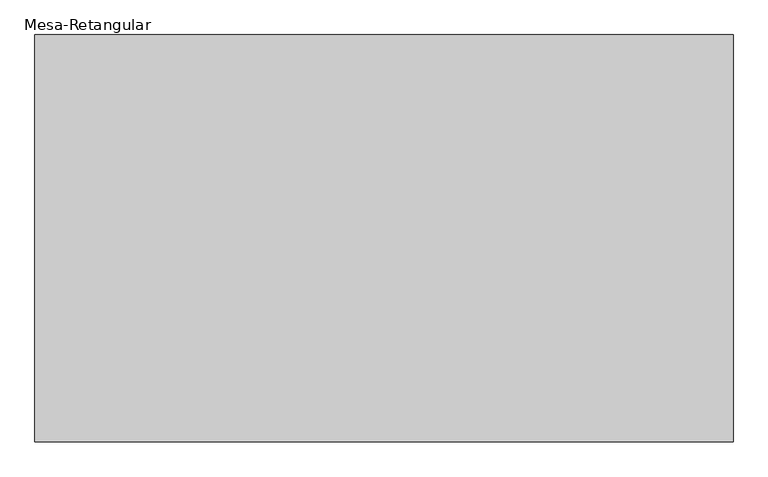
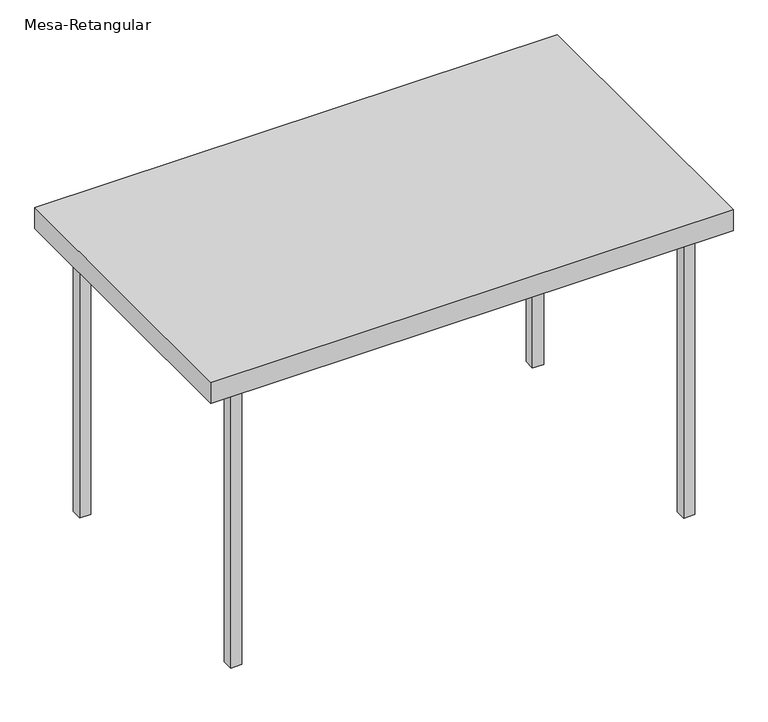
"""IFC4 building model written with IfcOpenShell, lengths in millimetres: furniture geometry, Mesa-Retangular : Mesa aço inox 70x120cm."""

from ifc_helpers import new_model, si_unit, frame, origin, origin_with_axes, place, context, project, spatial, polyline, outline, extrude, source, transform, mapped, element, save


def mesa_retangular_e6b4b2a0(model_context):
    return source(origin(), model_context, "Body", "SweptSolid", [
        extrude(outline(polyline([(-532.8946305, 288.2145104), (-532.8946305, 313.6145104), (-507.4946305, 313.6145104), (-507.4946305, 288.2145104), (-532.8946305, 288.2145104)])), origin_with_axes(), (0.0, 0.0, 1.0), 689.2),
        extrude(outline(polyline([(-532.8946305, -288.2145104), (-507.4946305, -288.2145104), (-507.4946305, -313.6145104), (-532.8946305, -313.6145104), (-532.8946305, -288.2145104)])), origin_with_axes(), (0.0, 0.0, 1.0), 689.2),
        extrude(outline(polyline([(532.8946305, 288.2145104), (507.4946305, 288.2145104), (507.4946305, 313.6145104), (532.8946305, 313.6145104), (532.8946305, 288.2145104)])), origin_with_axes(), (0.0, 0.0, 1.0), 689.2),
        extrude(outline(polyline([(532.8946305, -288.2145104), (532.8946305, -313.6145104), (507.4946305, -313.6145104), (507.4946305, -288.2145104), (532.8946305, -288.2145104)])), origin_with_axes(), (0.0, 0.0, 1.0), 689.2),
        extrude(outline(polyline([(600.0, 350.0), (600.0, -350.0), (-600.0, -350.0), (-600.0, 350.0), (600.0, 350.0)])), frame((0.0, 0.0, 689.2), z_axis=(0.0, 0.0, 1.0), x_axis=(1.0, 0.0, 0.0)), (0.0, 0.0, 1.0), 50.8),
    ])


if __name__ == "__main__":
    model = new_model("IFC4")
    model_context = context("Model", 3, world=origin())
    ifc_project = project(units=[si_unit("LENGTHUNIT", "METRE", prefix="MILLI")], contexts=[model_context])
    site = spatial("IfcSite", under=ifc_project)
    building = spatial("IfcBuilding", under=site)
    placement = place(None, origin())
    mesa_retangular_shape = mesa_retangular_e6b4b2a0(model_context)
    element("IfcFurniture", 1, ObjectType="Mesa-Retangular : Mesa aço inox 70x120cm", at=placement, inside=building, context=model_context, shape_type="MappedRepresentation", body=[
        mapped(mesa_retangular_shape, transform((0.0, 0.0, 0.0), x_axis=(1.0, 0.0, 0.0), y_axis=(0.0, 1.0, 0.0), z_axis=(0.0, 0.0, 1.0))),
    ])
    save(model, "model.ifc")
